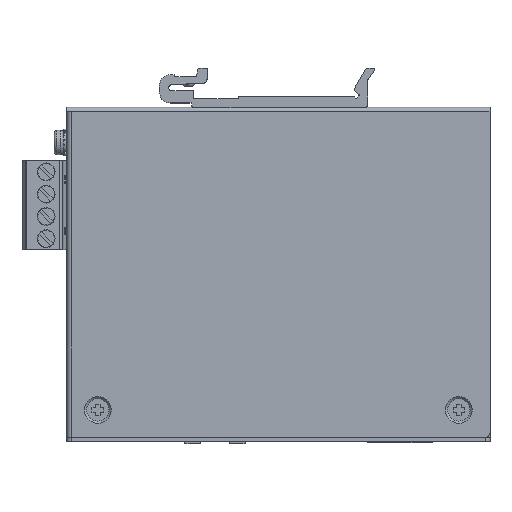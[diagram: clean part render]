
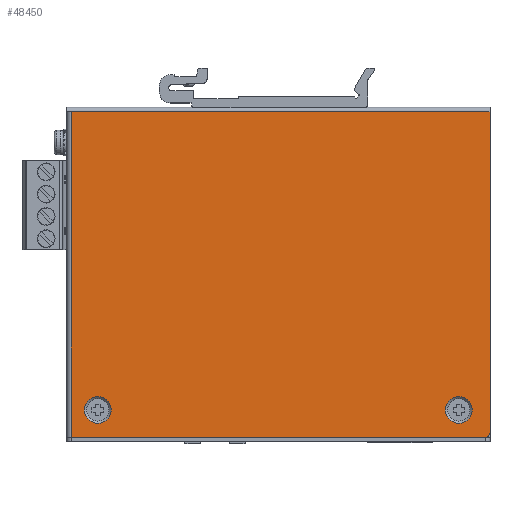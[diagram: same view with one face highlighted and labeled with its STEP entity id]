
A CAD part, top view. The second image highlights one B-rep face of the part: STEP entity #48450.
In plain terms, the highlighted planar face has unit normal (0, 0, 1).
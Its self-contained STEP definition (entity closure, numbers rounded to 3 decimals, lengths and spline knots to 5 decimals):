
#2861=CIRCLE('',#53087,0.003);
#2863=CIRCLE('',#53090,0.003);
#2935=CIRCLE('',#53231,0.001);
#15851=ORIENTED_EDGE('',*,*,#22952,.F.);
#15852=ORIENTED_EDGE('',*,*,#22954,.F.);
#15853=ORIENTED_EDGE('',*,*,#23065,.T.);
#15854=ORIENTED_EDGE('',*,*,#23080,.T.);
#15855=ORIENTED_EDGE('',*,*,#23095,.T.);
#15856=ORIENTED_EDGE('',*,*,#23096,.T.);
#15857=ORIENTED_EDGE('',*,*,#23097,.F.);
#22952=EDGE_CURVE('',#27643,#27643,#2861,.T.);
#22954=EDGE_CURVE('',#27645,#27645,#2863,.T.);
#23065=EDGE_CURVE('',#27737,#27736,#32691,.T.);
#23080=EDGE_CURVE('',#27736,#27638,#32704,.T.);
#23095=EDGE_CURVE('',#27638,#27753,#32715,.T.);
#23096=EDGE_CURVE('',#27753,#27754,#32716,.T.);
#23097=EDGE_CURVE('',#27737,#27754,#2935,.T.);
#27638=VERTEX_POINT('',#82946);
#27643=VERTEX_POINT('',#82959);
#27645=VERTEX_POINT('',#82964);
#27736=VERTEX_POINT('',#83222);
#27737=VERTEX_POINT('',#83224);
#27753=VERTEX_POINT('',#83280);
#27754=VERTEX_POINT('',#83284);
#32691=LINE('',#83223,#37714);
#32704=LINE('',#83252,#37727);
#32715=LINE('',#83281,#37738);
#32716=LINE('',#83283,#37739);
#37714=VECTOR('',#66484,1.);
#37727=VECTOR('',#66513,1.);
#37738=VECTOR('',#66542,1.);
#37739=VECTOR('',#66545,1.);
#40967=EDGE_LOOP('',(#15851));
#40968=EDGE_LOOP('',(#15852));
#40969=EDGE_LOOP('',(#15853,#15854,#15855,#15856,#15857));
#44081=FACE_BOUND('',#40967,.T.);
#44082=FACE_BOUND('',#40968,.T.);
#44083=FACE_BOUND('',#40969,.T.);
#45851=PLANE('',#53230);
#48450=ADVANCED_FACE('',(#44081,#44082,#44083),#45851,.T.);
#53087=AXIS2_PLACEMENT_3D('',#82958,#66187,#66188);
#53090=AXIS2_PLACEMENT_3D('',#82963,#66193,#66194);
#53230=AXIS2_PLACEMENT_3D('',#83282,#66543,#66544);
#53231=AXIS2_PLACEMENT_3D('',#83285,#66546,#66547);
#66187=DIRECTION('',(0.,0.,1.));
#66188=DIRECTION('',(1.,0.,0.));
#66193=DIRECTION('',(0.,0.,1.));
#66194=DIRECTION('',(1.,0.,0.));
#66484=DIRECTION('',(0.,1.,0.));
#66513=DIRECTION('',(-1.,0.,0.));
#66542=DIRECTION('',(0.,-1.,0.));
#66543=DIRECTION('',(0.,0.,1.));
#66544=DIRECTION('',(0.,-1.,0.));
#66545=DIRECTION('',(1.,0.,0.));
#66546=DIRECTION('',(0.,0.,-1.));
#66547=DIRECTION('',(1.,0.,0.));
#82946=CARTESIAN_POINT('',(-0.047,0.037,0.03));
#82958=CARTESIAN_POINT('',(-0.041,-0.0299,0.03));
#82959=CARTESIAN_POINT('',(-0.038,-0.0299,0.03));
#82963=CARTESIAN_POINT('',(0.04,-0.0299,0.03));
#82964=CARTESIAN_POINT('',(0.043,-0.0299,0.03));
#83222=CARTESIAN_POINT('',(0.047,0.037,0.03));
#83223=CARTESIAN_POINT('',(0.047,0.001,0.03));
#83224=CARTESIAN_POINT('',(0.047,-0.035,0.03));
#83252=CARTESIAN_POINT('',(0.047,0.037,0.03));
#83280=CARTESIAN_POINT('',(-0.047,-0.036,0.03));
#83281=CARTESIAN_POINT('',(-0.047,0.037,0.03));
#83282=CARTESIAN_POINT('',(-0.0005,0.001,0.03));
#83283=CARTESIAN_POINT('',(-0.047,-0.036,0.03));
#83284=CARTESIAN_POINT('',(0.046,-0.036,0.03));
#83285=CARTESIAN_POINT('',(0.046,-0.035,0.03));
